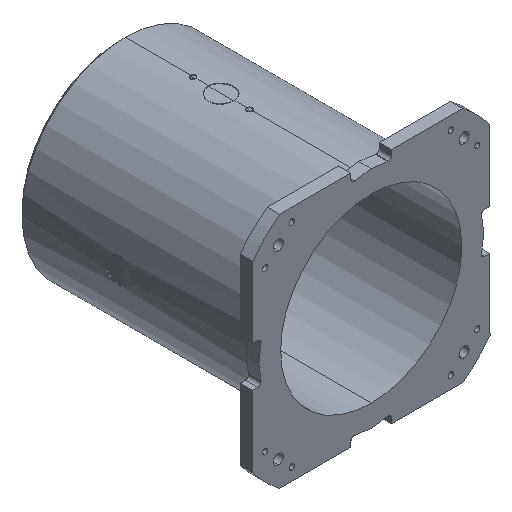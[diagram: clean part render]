
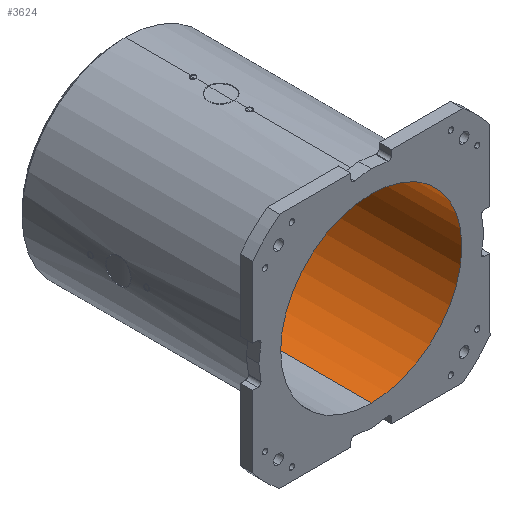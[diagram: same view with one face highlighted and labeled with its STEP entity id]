
A CAD part, isometric view. The second image highlights one B-rep face of the part: STEP entity #3624.
In plain terms, the highlighted cylindrical face has radius 145 mm (diameter 290 mm), a partial arc.
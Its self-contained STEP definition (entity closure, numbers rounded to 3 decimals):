
#527 = DIRECTION ( 'NONE',  ( 0., 1., 0. ) ) ;
#917 = CARTESIAN_POINT ( 'NONE',  ( 0., 382., -145. ) ) ;
#1257 = DIRECTION ( 'NONE',  ( 0., 0., 1. ) ) ;
#1526 = LINE ( 'NONE', #4586, #7919 ) ;
#1611 = ORIENTED_EDGE ( 'NONE', *, *, #6156, .F. ) ;
#1612 = VERTEX_POINT ( 'NONE', #4441 ) ;
#1644 = DIRECTION ( 'NONE',  ( 0., 1., 0. ) ) ;
#1676 = CIRCLE ( 'NONE', #8887, 145. ) ;
#2279 = EDGE_LOOP ( 'NONE', ( #1611, #4330, #4602, #7972 ) ) ;
#2368 = VERTEX_POINT ( 'NONE', #917 ) ;
#2995 = DIRECTION ( 'NONE',  ( 0., 1., 0. ) ) ;
#3172 = EDGE_CURVE ( 'NONE', #8232, #2368, #4529, .T. ) ;
#3624 = ADVANCED_FACE ( 'NONE', ( #6535 ), #5785, .F. ) ;
#4117 = CARTESIAN_POINT ( 'NONE',  ( 0., 0., 0. ) ) ;
#4287 = CARTESIAN_POINT ( 'NONE',  ( 0., 0., 145. ) ) ;
#4330 = ORIENTED_EDGE ( 'NONE', *, *, #5757, .F. ) ;
#4373 = AXIS2_PLACEMENT_3D ( 'NONE', #4117, #9598, #1257 ) ;
#4441 = CARTESIAN_POINT ( 'NONE',  ( 0., 0., -145. ) ) ;
#4529 = CIRCLE ( 'NONE', #7234, 145. ) ;
#4548 = CARTESIAN_POINT ( 'NONE',  ( 0., 382., 145. ) ) ;
#4586 = CARTESIAN_POINT ( 'NONE',  ( 0., 0., -145. ) ) ;
#4602 = ORIENTED_EDGE ( 'NONE', *, *, #5514, .T. ) ;
#5428 = VERTEX_POINT ( 'NONE', #4287 ) ;
#5474 = LINE ( 'NONE', #7814, #8391 ) ;
#5514 = EDGE_CURVE ( 'NONE', #5428, #8232, #5474, .T. ) ;
#5757 = EDGE_CURVE ( 'NONE', #5428, #1612, #1676, .T. ) ;
#5785 = CYLINDRICAL_SURFACE ( 'NONE', #4373, 145. ) ;
#5879 = CARTESIAN_POINT ( 'NONE',  ( 0., 0., 0. ) ) ;
#6156 = EDGE_CURVE ( 'NONE', #1612, #2368, #1526, .T. ) ;
#6535 = FACE_OUTER_BOUND ( 'NONE', #2279, .T. ) ;
#6760 = DIRECTION ( 'NONE',  ( 0., 0., 1. ) ) ;
#7234 = AXIS2_PLACEMENT_3D ( 'NONE', #9852, #1644, #7746 ) ;
#7746 = DIRECTION ( 'NONE',  ( 0., 0., 1. ) ) ;
#7814 = CARTESIAN_POINT ( 'NONE',  ( 0., 0., 145. ) ) ;
#7919 = VECTOR ( 'NONE', #2995, 1000. ) ;
#7972 = ORIENTED_EDGE ( 'NONE', *, *, #3172, .T. ) ;
#8232 = VERTEX_POINT ( 'NONE', #4548 ) ;
#8391 = VECTOR ( 'NONE', #8623, 1000. ) ;
#8623 = DIRECTION ( 'NONE',  ( 0., 1., 0. ) ) ;
#8887 = AXIS2_PLACEMENT_3D ( 'NONE', #5879, #527, #6760 ) ;
#9598 = DIRECTION ( 'NONE',  ( 0., 1., 0. ) ) ;
#9852 = CARTESIAN_POINT ( 'NONE',  ( 0., 382., 0. ) ) ;
